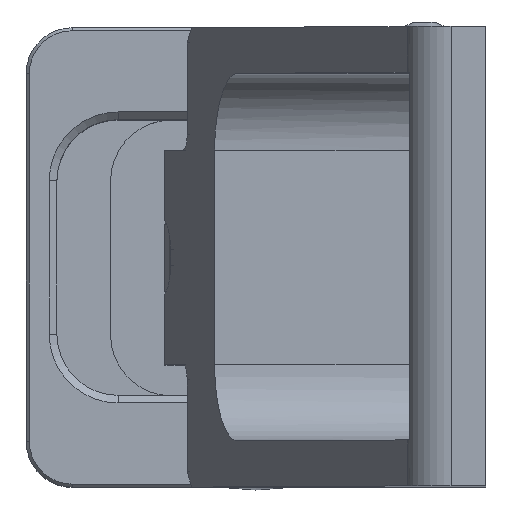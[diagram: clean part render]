
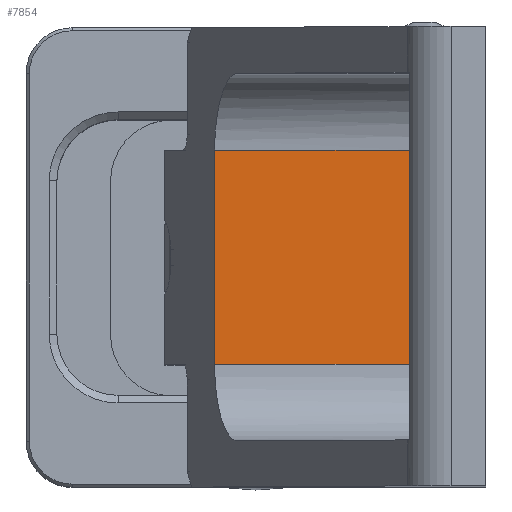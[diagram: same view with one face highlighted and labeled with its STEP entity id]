
A CAD part, top view. The second image highlights one B-rep face of the part: STEP entity #7854.
In plain terms, the highlighted planar face has unit normal (0, 0, 1).
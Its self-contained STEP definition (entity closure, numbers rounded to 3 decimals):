
#105 = ORIENTED_EDGE ( 'NONE', *, *, #4686, .T. ) ;
#450 = EDGE_CURVE ( 'NONE', #4675, #3699, #1731, .T. ) ;
#1138 = VECTOR ( 'NONE', #4070, 1000. ) ;
#1296 = LINE ( 'NONE', #6777, #1138 ) ;
#1318 = DIRECTION ( 'NONE',  ( 0., -1., 0. ) ) ;
#1354 = EDGE_CURVE ( 'NONE', #3625, #4675, #6383, .T. ) ;
#1560 = ORIENTED_EDGE ( 'NONE', *, *, #1354, .T. ) ;
#1731 = LINE ( 'NONE', #3829, #3790 ) ;
#2271 = CARTESIAN_POINT ( 'NONE',  ( 10.005, 7., 7.5 ) ) ;
#2292 = DIRECTION ( 'NONE',  ( 1., 0., 0. ) ) ;
#2535 = DIRECTION ( 'NONE',  ( 0., 0., 1. ) ) ;
#2697 = LINE ( 'NONE', #2271, #3907 ) ;
#3266 = ORIENTED_EDGE ( 'NONE', *, *, #450, .T. ) ;
#3435 = EDGE_CURVE ( 'NONE', #5815, #3625, #2697, .T. ) ;
#3475 = CARTESIAN_POINT ( 'NONE',  ( -2.695, 7., 7.5 ) ) ;
#3625 = VERTEX_POINT ( 'NONE', #3475 ) ;
#3699 = VERTEX_POINT ( 'NONE', #6835 ) ;
#3712 = DIRECTION ( 'NONE',  ( -1., 0., 0. ) ) ;
#3790 = VECTOR ( 'NONE', #2292, 1000. ) ;
#3829 = CARTESIAN_POINT ( 'NONE',  ( 46.246, -7., 7.5 ) ) ;
#3907 = VECTOR ( 'NONE', #3712, 1000. ) ;
#4070 = DIRECTION ( 'NONE',  ( 0., 1., 0. ) ) ;
#4675 = VERTEX_POINT ( 'NONE', #4971 ) ;
#4686 = EDGE_CURVE ( 'NONE', #3699, #5815, #1296, .T. ) ;
#4780 = FACE_OUTER_BOUND ( 'NONE', #6316, .T. ) ;
#4971 = CARTESIAN_POINT ( 'NONE',  ( -2.695, -7., 7.5 ) ) ;
#5197 = CARTESIAN_POINT ( 'NONE',  ( 10.005, -7., 7.5 ) ) ;
#5720 = CARTESIAN_POINT ( 'NONE',  ( 10.005, 7., 7.5 ) ) ;
#5803 = VECTOR ( 'NONE', #6218, 1000. ) ;
#5815 = VERTEX_POINT ( 'NONE', #5720 ) ;
#6218 = DIRECTION ( 'NONE',  ( 0., -1., 0. ) ) ;
#6220 = CARTESIAN_POINT ( 'NONE',  ( -2.695, 15., 7.5 ) ) ;
#6316 = EDGE_LOOP ( 'NONE', ( #105, #7778, #1560, #3266 ) ) ;
#6335 = PLANE ( 'NONE',  #7813 ) ;
#6383 = LINE ( 'NONE', #6220, #5803 ) ;
#6777 = CARTESIAN_POINT ( 'NONE',  ( 10.005, -7., 7.5 ) ) ;
#6835 = CARTESIAN_POINT ( 'NONE',  ( 10.005, -7., 7.5 ) ) ;
#7778 = ORIENTED_EDGE ( 'NONE', *, *, #3435, .T. ) ;
#7813 = AXIS2_PLACEMENT_3D ( 'NONE', #5197, #2535, #1318 ) ;
#7854 = ADVANCED_FACE ( 'NONE', ( #4780 ), #6335, .T. ) ;
